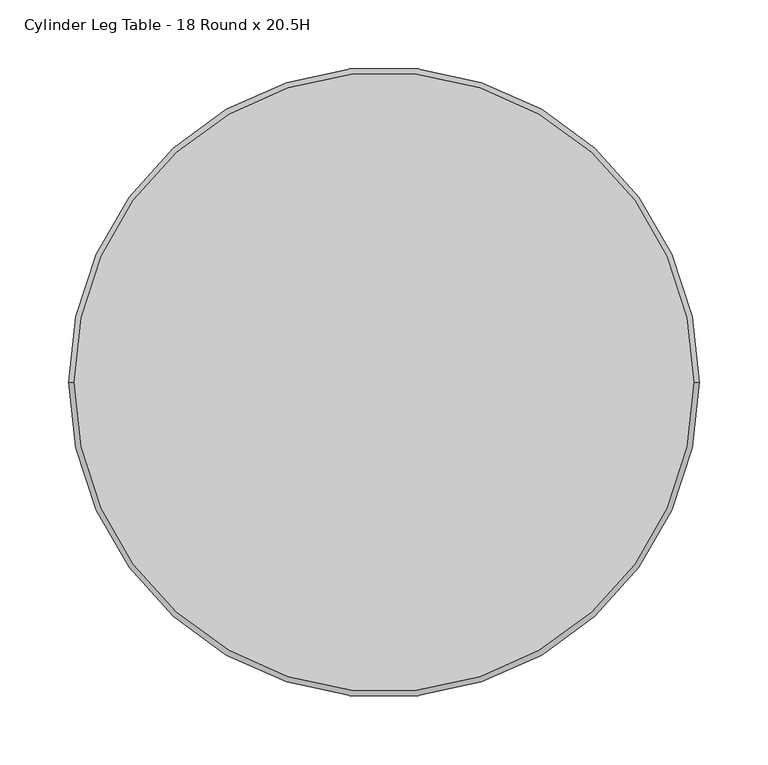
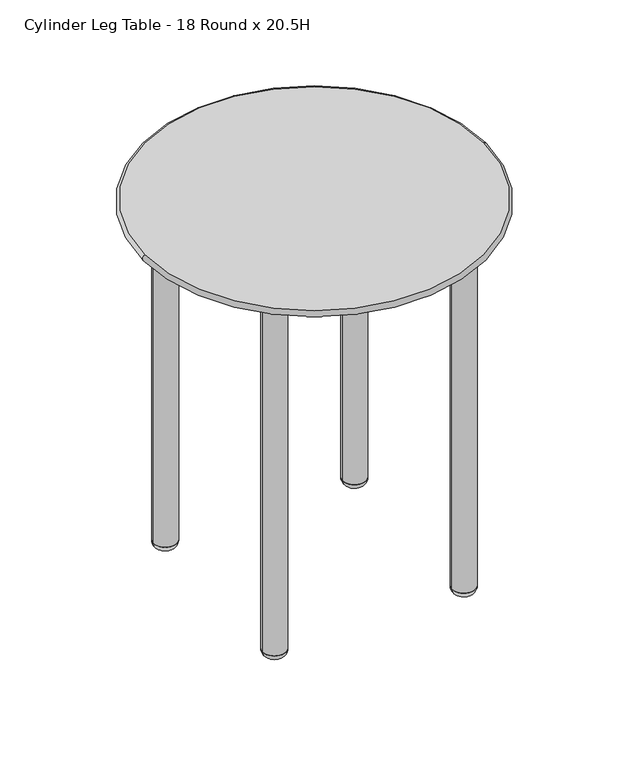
"""IFC4 building model written with IfcOpenShell, lengths in millimetres: furniture geometry, Integra - Coastal Collection - Coastal Metal Tables - Freestanding Table : Cylinder Leg Table - 18 Round x 20.5H."""

from ifc_helpers import new_model, si_unit, point, frame, frame_2d, origin, origin_2d, place, context, project, spatial, circle_curve, ellipse_curve, trimmed, segment, composite_curve, outline, extrude, source, transform, mapped, element, save
from ifc_brep_helpers import plane_surface, revolved_surface, advanced_brep


def cylinder_leg_table_18_round_x_20_5h_a726e20a(model_context):
    return source(origin(), model_context, "Body", "SolidModel", [
        advanced_brep(
        [(-203.184015, 0.0, 507.9999939), (203.184015, 0.0, 507.9999939), (224.6380192, 0.0, 520.7), (-224.6380192, 0.0, 520.7), (226.3187402, 0.0, 513.1501969), (-226.3187402, 0.0, 513.1501969)],
        [
            (0, 1, circle_curve(frame((0.0, 0.0, 507.9999939), z_axis=(0.0, 0.0, -1.0), x_axis=(1.0, 0.0, 0.0)), 203.184015)),
            (1, 0, circle_curve(frame((0.0, 0.0, 507.9999939), z_axis=(0.0, 0.0, -1.0), x_axis=(-1.0, 0.0, 0.0)), 203.184015)),
            (2, 3, circle_curve(frame((0.0, 0.0, 520.7), z_axis=(0.0, 0.0, 1.0), x_axis=(1.0, 0.0, 0.0)), 224.6380192)),
            (3, 2, circle_curve(frame((0.0, 0.0, 520.7), z_axis=(0.0, 0.0, 1.0), x_axis=(-1.0, 0.0, 0.0)), 224.6380192)),
            (2, 4, circle_curve(frame((224.6380192, 0.0, 516.7380192), z_axis=(0.0, 1.0, 0.0), x_axis=(-1.0, 0.0, 0.0)), 3.9619808)),
            (4, 5, circle_curve(frame((0.0, 0.0, 513.1501969), z_axis=(0.0, 0.0, 1.0), x_axis=(1.0, 0.0, 0.0)), 226.3187402)),
            (5, 3, circle_curve(frame((-224.6380192, 0.0, 516.7380192), z_axis=(0.0, 1.0, 0.0), x_axis=(1.0, 0.0, 0.0)), 3.9619808)),
            (4, 1, circle_curve(frame((203.184015, 0.0, 562.5357186), z_axis=(0.0, 1.0, 0.0), x_axis=(-1.0, 0.0, 0.0)), 54.5357246)),
            (0, 5, circle_curve(frame((-203.184015, 0.0, 562.5357186), z_axis=(0.0, 1.0, 0.0), x_axis=(1.0, 0.0, 0.0)), 54.5357246)),
            (5, 4, circle_curve(frame((0.0, 0.0, 513.1501969), z_axis=(0.0, 0.0, 1.0), x_axis=(-1.0, 0.0, 0.0)), 226.3187402)),
        ],
        [
            plane_surface(frame((-25.4, 0.0, 507.9999939), z_axis=(0.0, 0.0, -1.0), x_axis=(0.0, 1.0, 0.0))),
            plane_surface(frame((-25.4, 0.0, 520.7), z_axis=(0.0, 0.0, 1.0), x_axis=(0.0, -1.0, 0.0))),
            revolved_surface(trimmed(ellipse_curve(frame((224.6380192, 0.0, 516.7380192), z_axis=(0.0, -1.0, 0.0), x_axis=(-1.0, 0.0, 0.0)), 3.9619808, 3.9619808), [point((226.3187402, 0.0, 513.1501969))], [point((224.6380192, 0.0, 520.7))], True, "CARTESIAN"), (0.0, 0.0, 520.7), (0.0, 0.0, 1.0)),
            revolved_surface(trimmed(ellipse_curve(frame((203.184015, 0.0, 562.5357186), z_axis=(0.0, -1.0, 0.0), x_axis=(-1.0, 0.0, 0.0)), 54.5357246, 54.5357246), [point((203.184015, 0.0, 507.9999939))], [point((226.3187402, 0.0, 513.1501969))], True, "CARTESIAN"), (0.0, 0.0, 520.7), (0.0, 0.0, 1.0)),
            revolved_surface(trimmed(ellipse_curve(frame((-224.6380192, 0.0, 516.7380192), z_axis=(0.0, 1.0, 0.0), x_axis=(1.0, 0.0, 0.0)), 3.9619808, 3.9619808), [point((-226.3187402, 0.0, 513.1501969))], [point((-224.6380192, 0.0, 520.7))], True, "CARTESIAN"), (0.0, 0.0, 520.7), (0.0, 0.0, 1.0)),
            revolved_surface(trimmed(ellipse_curve(frame((-203.184015, 0.0, 562.5357186), z_axis=(0.0, 1.0, 0.0), x_axis=(1.0, 0.0, 0.0)), 54.5357246, 54.5357246), [point((-203.184015, 0.0, 507.9999939))], [point((-226.3187402, 0.0, 513.1501969))], True, "CARTESIAN"), (0.0, 0.0, 520.7), (0.0, 0.0, 1.0)),
        ],
        [
            (0, [[1, 2]]),
            (1, [[3, 4]]),
            (2, [[-3, 5, 6, 7]]),
            (3, [[-6, 8, -1, 9]]),
            (4, [[-5, -4, -7, 10]]),
            (5, [[-8, -10, -9, -2]]),
        ],
    ),
        extrude(outline(composite_curve([segment(trimmed(circle_curve(origin_2d(), 203.2), [point((-203.2, 0.0))], [point((203.2, 0.0))], False, "CARTESIAN"), True, "CONTINUOUS"), segment(trimmed(circle_curve(origin_2d(), 203.2), [point((203.2, 0.0))], [point((-203.2, 0.0))], False, "CARTESIAN"), True, "CONTINUOUS")], self_intersect=False)), frame((0.0, 0.0, 501.6499939), z_axis=(0.0, 0.0, 1.0), x_axis=(1.0, 0.0, 0.0)), (0.0, 0.0, 1.0), 6.35),
        advanced_brep(
        [(-141.3679796, 125.7235857, 9.5239742), (-110.0791918, 125.7235857, 9.5239742), (-125.7235857, 125.7235857, 9.5239742), (-131.8429796, 125.7235857, -0.0010258), (-119.6041918, 125.7235857, -0.0010258), (-125.7235857, 125.7235857, -0.0010258)],
        [
            (0, 1, circle_curve(frame((-125.7235857, 125.7235857, 9.5239742), z_axis=(0.0, 0.0, 1.0), x_axis=(1.0, 0.0, 0.0)), 15.6443939)),
            (1, 2),
            (2, 0),
            (1, 0, circle_curve(frame((-125.7235857, 125.7235857, 9.5239742), z_axis=(0.0, 0.0, 1.0), x_axis=(1.0, 0.0, 0.0)), 15.6443939)),
            (3, 4, circle_curve(frame((-125.7235857, 125.7235857, -0.0010258), z_axis=(0.0, 0.0, 1.0), x_axis=(1.0, 0.0, 0.0)), 6.1193939)),
            (4, 1, circle_curve(frame((-119.6041918, 125.7235857, 9.5239742), z_axis=(0.0, -1.0, 0.0), x_axis=(1.0, 0.0, 0.0)), 9.525)),
            (0, 3, circle_curve(frame((-131.8429796, 125.7235857, 9.5239742), z_axis=(0.0, -1.0, 0.0), x_axis=(-1.0, 0.0, 0.0)), 9.525)),
            (4, 3, circle_curve(frame((-125.7235857, 125.7235857, -0.0010258), z_axis=(0.0, 0.0, 1.0), x_axis=(1.0, 0.0, 0.0)), 6.1193939)),
            (5, 4),
            (3, 5),
        ],
        [
            plane_surface(frame((-125.7235857, 125.7235857, 9.5239742), z_axis=(0.0, 0.0, 1.0), x_axis=(1.0, 0.0, 0.0))),
            revolved_surface(trimmed(ellipse_curve(frame((-119.6041918, 125.7235857, 9.5239742), z_axis=(0.0, 1.0, 0.0), x_axis=(1.0, 0.0, 0.0)), 9.525, 9.525), [point((-110.0791918, 125.7235857, 9.5239742))], [point((-119.6041918, 125.7235857, -0.0010258))], True, "CARTESIAN"), (-125.7235857, 125.7235857, -0.0010258), (0.0, 0.0, -1.0)),
            plane_surface(frame((-125.7235857, 125.7235857, -0.0010258), z_axis=(0.0, 0.0, -1.0), x_axis=(1.0, 0.0, 0.0))),
        ],
        [
            (0, [[1, 2, 3]]),
            (0, [[4, -3, -2]]),
            (1, [[5, 6, -1, 7]]),
            (1, [[8, -7, -4, -6]]),
            (2, [[9, -5, 10]]),
            (2, [[-10, -8, -9]]),
        ],
    ),
        advanced_brep(
        [(-125.7235857, -125.7235857, 9.5239742), (-110.0791918, -125.7235857, 9.5239742), (-141.3679796, -125.7235857, 9.5239742), (-119.6041918, -125.7235857, -0.0010258), (-131.8429796, -125.7235857, -0.0010258), (-125.7235857, -125.7235857, -0.0010258)],
        [
            (0, 1),
            (1, 2, circle_curve(frame((-125.7235857, -125.7235857, 9.5239742), z_axis=(0.0, 0.0, 1.0), x_axis=(1.0, 0.0, 0.0)), 15.6443939)),
            (2, 0),
            (2, 1, circle_curve(frame((-125.7235857, -125.7235857, 9.5239742), z_axis=(0.0, 0.0, 1.0), x_axis=(1.0, 0.0, 0.0)), 15.6443939)),
            (1, 3, circle_curve(frame((-119.6041918, -125.7235857, 9.5239742), z_axis=(0.0, 1.0, 0.0), x_axis=(1.0, 0.0, 0.0)), 9.525)),
            (3, 4, circle_curve(frame((-125.7235857, -125.7235857, -0.0010258), z_axis=(0.0, 0.0, 1.0), x_axis=(1.0, 0.0, 0.0)), 6.1193939)),
            (4, 2, circle_curve(frame((-131.8429796, -125.7235857, 9.5239742), z_axis=(0.0, 1.0, 0.0), x_axis=(-1.0, 0.0, 0.0)), 9.525)),
            (4, 3, circle_curve(frame((-125.7235857, -125.7235857, -0.0010258), z_axis=(0.0, 0.0, 1.0), x_axis=(1.0, 0.0, 0.0)), 6.1193939)),
            (3, 5),
            (5, 4),
        ],
        [
            plane_surface(frame((-125.7235857, -125.7235857, 9.5239742), z_axis=(0.0, 0.0, 1.0), x_axis=(1.0, 0.0, 0.0))),
            revolved_surface(trimmed(ellipse_curve(frame((-119.6041918, -125.7235857, 9.5239742), z_axis=(0.0, -1.0, 0.0), x_axis=(1.0, 0.0, 0.0)), 9.525, 9.525), [point((-119.6041918, -125.7235857, -0.0010258))], [point((-110.0791918, -125.7235857, 9.5239742))], True, "CARTESIAN"), (-125.7235857, -125.7235857, -0.0010258), (0.0, 0.0, 1.0)),
            plane_surface(frame((-125.7235857, -125.7235857, -0.0010258), z_axis=(0.0, 0.0, -1.0), x_axis=(1.0, 0.0, 0.0))),
        ],
        [
            (0, [[1, 2, 3]]),
            (0, [[-3, 4, -1]]),
            (1, [[-2, 5, 6, 7]]),
            (1, [[-4, -7, 8, -5]]),
            (2, [[-6, 9, 10]]),
            (2, [[-8, -10, -9]]),
        ],
    ),
        advanced_brep(
        [(125.7235857, 125.7235857, 9.5239742), (110.0791918, 125.7235857, 9.5239742), (141.3679796, 125.7235857, 9.5239742), (119.6041918, 125.7235857, -0.0010258), (131.8429796, 125.7235857, -0.0010258), (125.7235857, 125.7235857, -0.0010258)],
        [
            (0, 1),
            (1, 2, circle_curve(frame((125.7235857, 125.7235857, 9.5239742), z_axis=(0.0, 0.0, 1.0), x_axis=(-1.0, 0.0, 0.0)), 15.6443939)),
            (2, 0),
            (2, 1, circle_curve(frame((125.7235857, 125.7235857, 9.5239742), z_axis=(0.0, 0.0, 1.0), x_axis=(-1.0, 0.0, 0.0)), 15.6443939)),
            (1, 3, circle_curve(frame((119.6041918, 125.7235857, 9.5239742), z_axis=(0.0, -1.0, 0.0), x_axis=(-1.0, 0.0, 0.0)), 9.525)),
            (3, 4, circle_curve(frame((125.7235857, 125.7235857, -0.0010258), z_axis=(0.0, 0.0, 1.0), x_axis=(-1.0, 0.0, 0.0)), 6.1193939)),
            (4, 2, circle_curve(frame((131.8429796, 125.7235857, 9.5239742), z_axis=(0.0, -1.0, 0.0), x_axis=(1.0, 0.0, 0.0)), 9.525)),
            (4, 3, circle_curve(frame((125.7235857, 125.7235857, -0.0010258), z_axis=(0.0, 0.0, 1.0), x_axis=(-1.0, 0.0, 0.0)), 6.1193939)),
            (3, 5),
            (5, 4),
        ],
        [
            plane_surface(frame((125.7235857, 125.7235857, 9.5239742), z_axis=(0.0, 0.0, 1.0), x_axis=(-1.0, 0.0, 0.0))),
            revolved_surface(trimmed(ellipse_curve(frame((119.6041918, 125.7235857, 9.5239742), z_axis=(0.0, 1.0, 0.0), x_axis=(-1.0, 0.0, 0.0)), 9.525, 9.525), [point((119.6041918, 125.7235857, -0.0010258))], [point((110.0791918, 125.7235857, 9.5239742))], True, "CARTESIAN"), (125.7235857, 125.7235857, -0.0010258), (0.0, 0.0, 1.0)),
            plane_surface(frame((125.7235857, 125.7235857, -0.0010258), z_axis=(0.0, 0.0, -1.0), x_axis=(-1.0, 0.0, 0.0))),
        ],
        [
            (0, [[1, 2, 3]]),
            (0, [[-3, 4, -1]]),
            (1, [[-2, 5, 6, 7]]),
            (1, [[-4, -7, 8, -5]]),
            (2, [[-6, 9, 10]]),
            (2, [[-8, -10, -9]]),
        ],
    ),
        advanced_brep(
        [(141.3679796, -125.7235857, 9.5239742), (110.0791918, -125.7235857, 9.5239742), (125.7235857, -125.7235857, 9.5239742), (131.8429796, -125.7235857, -0.0010258), (119.6041918, -125.7235857, -0.0010258), (125.7235857, -125.7235857, -0.0010258)],
        [
            (0, 1, circle_curve(frame((125.7235857, -125.7235857, 9.5239742), z_axis=(0.0, 0.0, 1.0), x_axis=(-1.0, 0.0, 0.0)), 15.6443939)),
            (1, 2),
            (2, 0),
            (1, 0, circle_curve(frame((125.7235857, -125.7235857, 9.5239742), z_axis=(0.0, 0.0, 1.0), x_axis=(-1.0, 0.0, 0.0)), 15.6443939)),
            (3, 4, circle_curve(frame((125.7235857, -125.7235857, -0.0010258), z_axis=(0.0, 0.0, 1.0), x_axis=(-1.0, 0.0, 0.0)), 6.1193939)),
            (4, 1, circle_curve(frame((119.6041918, -125.7235857, 9.5239742), z_axis=(0.0, 1.0, 0.0), x_axis=(-1.0, 0.0, 0.0)), 9.525)),
            (0, 3, circle_curve(frame((131.8429796, -125.7235857, 9.5239742), z_axis=(0.0, 1.0, 0.0), x_axis=(1.0, 0.0, 0.0)), 9.525)),
            (4, 3, circle_curve(frame((125.7235857, -125.7235857, -0.0010258), z_axis=(0.0, 0.0, 1.0), x_axis=(-1.0, 0.0, 0.0)), 6.1193939)),
            (5, 4),
            (3, 5),
        ],
        [
            plane_surface(frame((125.7235857, -125.7235857, 9.5239742), z_axis=(0.0, 0.0, 1.0), x_axis=(-1.0, 0.0, 0.0))),
            revolved_surface(trimmed(ellipse_curve(frame((119.6041918, -125.7235857, 9.5239742), z_axis=(0.0, -1.0, 0.0), x_axis=(-1.0, 0.0, 0.0)), 9.525, 9.525), [point((110.0791918, -125.7235857, 9.5239742))], [point((119.6041918, -125.7235857, -0.0010258))], True, "CARTESIAN"), (125.7235857, -125.7235857, -0.0010258), (0.0, 0.0, -1.0)),
            plane_surface(frame((125.7235857, -125.7235857, -0.0010258), z_axis=(0.0, 0.0, -1.0), x_axis=(-1.0, 0.0, 0.0))),
        ],
        [
            (0, [[1, 2, 3]]),
            (0, [[4, -3, -2]]),
            (1, [[5, 6, -1, 7]]),
            (1, [[8, -7, -4, -6]]),
            (2, [[9, -5, 10]]),
            (2, [[-10, -8, -9]]),
        ],
    ),
        extrude(outline(composite_curve([segment(trimmed(circle_curve(frame_2d((125.7235857, 125.7235857)), 15.6443939), [point((110.0791918, 125.7235857))], [point((141.3679796, 125.7235857))], False, "CARTESIAN"), True, "CONTINUOUS"), segment(trimmed(circle_curve(frame_2d((125.7235857, 125.7235857)), 15.6443939), [point((141.3679796, 125.7235857))], [point((110.0791918, 125.7235857))], False, "CARTESIAN"), True, "CONTINUOUS")], self_intersect=False)), frame((0.0, 0.0, 9.5366915), z_axis=(0.0, 0.0, 1.0), x_axis=(1.0, 0.0, 0.0)), (0.0, 0.0, 1.0), 492.1133025),
        extrude(outline(composite_curve([segment(trimmed(circle_curve(frame_2d((125.7235857, -125.7235857)), 15.6443939), [point((110.0791918, -125.7235857))], [point((141.3679796, -125.7235857))], False, "CARTESIAN"), True, "CONTINUOUS"), segment(trimmed(circle_curve(frame_2d((125.7235857, -125.7235857)), 15.6443939), [point((141.3679796, -125.7235857))], [point((110.0791918, -125.7235857))], False, "CARTESIAN"), True, "CONTINUOUS")], self_intersect=False)), frame((0.0, 0.0, 9.5366915), z_axis=(0.0, 0.0, 1.0), x_axis=(1.0, 0.0, 0.0)), (0.0, 0.0, 1.0), 492.1133025),
        extrude(outline(composite_curve([segment(trimmed(circle_curve(frame_2d((-125.7235857, 125.7235857)), 15.6443939), [point((-141.3679796, 125.7235857))], [point((-110.0791918, 125.7235857))], False, "CARTESIAN"), True, "CONTINUOUS"), segment(trimmed(circle_curve(frame_2d((-125.7235857, 125.7235857)), 15.6443939), [point((-110.0791918, 125.7235857))], [point((-141.3679796, 125.7235857))], False, "CARTESIAN"), True, "CONTINUOUS")], self_intersect=False)), frame((0.0, 0.0, 9.5366915), z_axis=(0.0, 0.0, 1.0), x_axis=(1.0, 0.0, 0.0)), (0.0, 0.0, 1.0), 492.1133025),
        extrude(outline(composite_curve([segment(trimmed(circle_curve(frame_2d((-125.7235857, -125.7235857)), 15.6443939), [point((-141.3679796, -125.7235857))], [point((-110.0791918, -125.7235857))], False, "CARTESIAN"), True, "CONTINUOUS"), segment(trimmed(circle_curve(frame_2d((-125.7235857, -125.7235857)), 15.6443939), [point((-110.0791918, -125.7235857))], [point((-141.3679796, -125.7235857))], False, "CARTESIAN"), True, "CONTINUOUS")], self_intersect=False)), frame((0.0, 0.0, 9.5366915), z_axis=(0.0, 0.0, 1.0), x_axis=(1.0, 0.0, 0.0)), (0.0, 0.0, 1.0), 492.1133025),
    ])


if __name__ == "__main__":
    model = new_model("IFC4")
    model_context = context("Model", 3, world=origin())
    ifc_project = project(units=[si_unit("LENGTHUNIT", "METRE", prefix="MILLI")], contexts=[model_context])
    site = spatial("IfcSite", under=ifc_project)
    building = spatial("IfcBuilding", under=site)
    placement = place(None, origin())
    cylinder_leg_table_18_round_x_20_5h_shape = cylinder_leg_table_18_round_x_20_5h_a726e20a(model_context)
    element("IfcFurniture", 1, ObjectType="Integra - Coastal Collection - Coastal Metal Tables - Freestanding Table : Cylinder Leg Table - 18 Round x 20.5H", at=placement, inside=building, context=model_context, shape_type="MappedRepresentation", body=[
        mapped(cylinder_leg_table_18_round_x_20_5h_shape, transform((0.0, 0.0, 0.0), x_axis=(1.0, 0.0, 0.0), y_axis=(0.0, 1.0, 0.0), z_axis=(0.0, 0.0, 1.0))),
    ])
    save(model, "model.ifc")
